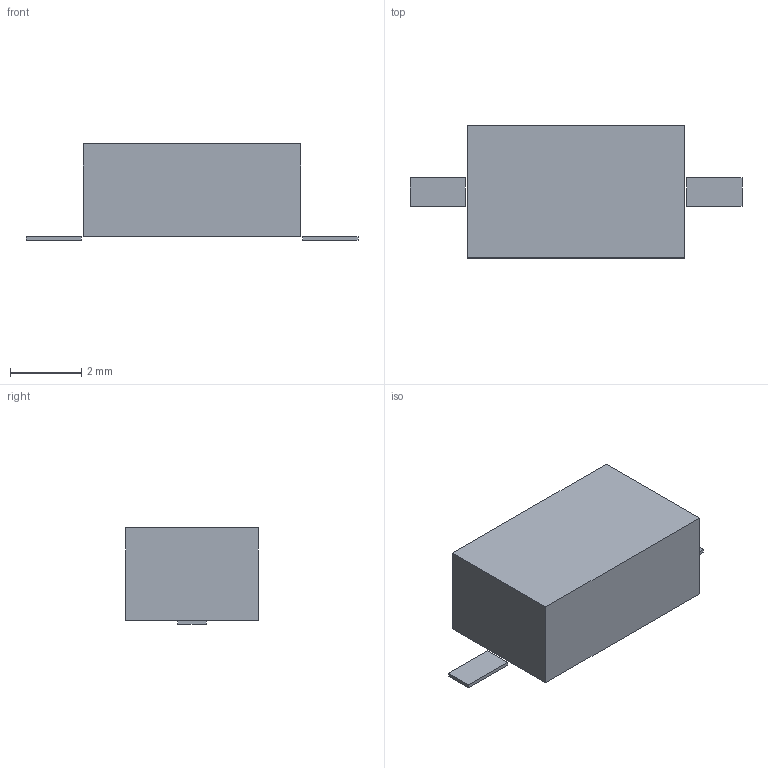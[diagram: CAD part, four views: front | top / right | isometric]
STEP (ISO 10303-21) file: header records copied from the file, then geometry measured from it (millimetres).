
FILE_DESCRIPTION(('FreeCAD Model'),'2;1');
FILE_NAME('/var/www/3D/0T/12752999.1.3.stp','2023-11-22T09:24:45',( 'Author'),(''),'Open CASCADE STEP processor 6.9','FreeCAD','Unknown' );
FILE_SCHEMA(('AUTOMOTIVE_DESIGN { 1 0 10303 214 1 1 1 1 }'));
Length unit declared in the file: millimetre
Products named in the file (3): ASSEMBLY; Body; Pins
Assembly tree (2 placements, depth 2):
  ASSEMBLY
    Body
    Pins
Bounding box: 9.3 x 3.7 x 2.7 mm (x, y, z)
Volume: 58.9 mm3; surface area: 102 mm2
Topology: 3 solids, 3 shells, 18 faces, 36 edges, 24 vertices
Faces by surface type: plane 18
Entity records: 1001 total; most frequent: CARTESIAN_POINT 153, DIRECTION 150, LINE 108, VECTOR 108, ORIENTED_EDGE 72, PCURVE 72, DEFINITIONAL_REPRESENTATION 72, EDGE_CURVE 36
